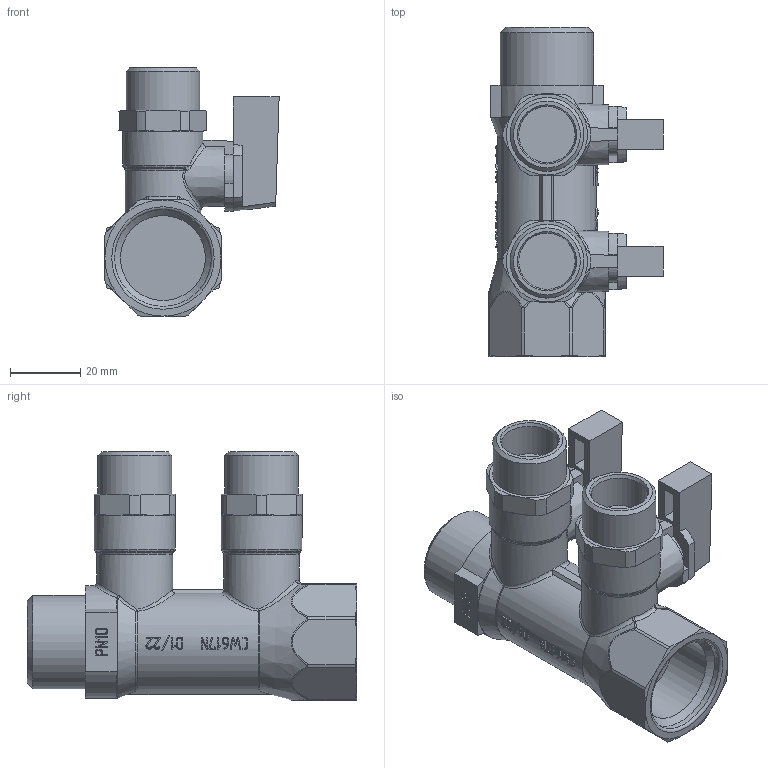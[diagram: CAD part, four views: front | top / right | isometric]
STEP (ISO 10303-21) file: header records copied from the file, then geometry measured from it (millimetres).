
FILE_DESCRIPTION(('STEP AP203'), '1');
FILE_NAME('覆.622621.009.000 捘 - VTc.580.N.05021', '2024-07-25T11:32:03', ('Boss'), (''), 'C3D Converter', 'C3D Toolkit', '');
FILE_SCHEMA(('CONFIG_CONTROL_DESIGN'));
Length unit declared in the file: millimetre
Products named in the file (1): ВР.622621.009.000 СБ
Bounding box: 49.5 x 93.5 x 70.5 mm (x, y, z)
Volume: 85595 mm3; surface area: 26562.7 mm2
Topology: 3 solids, 3 shells, 883 faces, 2380 edges, 1546 vertices
Faces by surface type: extrusion 338, plane 332, cylinder 91, cone 53, bspline 46, torus 23
Full cylindrical faces by diameter (mm): 4 x2, 4.5 x2, 6.4 x2, 8 x2, 10 x2, 16 x2, 20.955 x2, 21 x1, 21.5 x2, 23 x2, 24.118 x1, 26.441 x1, 27.5 x1
Entity records: 41813 total; most frequent: CARTESIAN_POINT 22008, ORIENTED_EDGE 4668, DIRECTION 2864, EDGE_CURVE 2334, VERTEX_POINT 1546, VECTOR 1312, B_SPLINE_CURVE_WITH_KNOTS 1298, EDGE_LOOP 976
